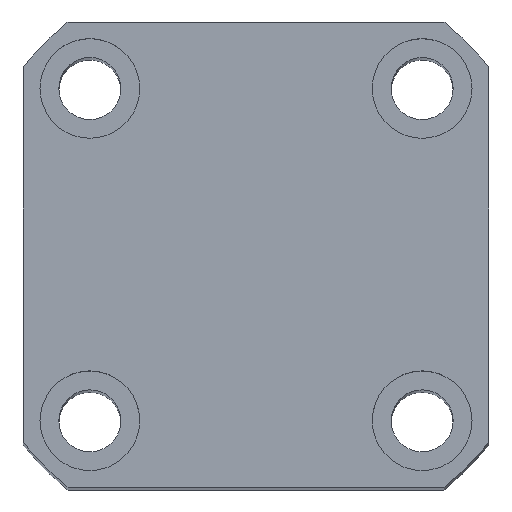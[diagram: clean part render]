
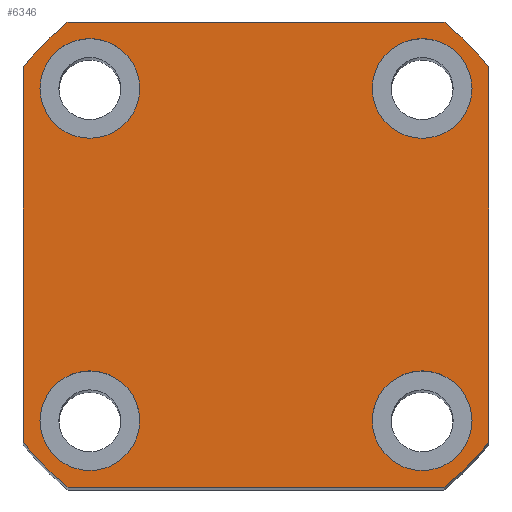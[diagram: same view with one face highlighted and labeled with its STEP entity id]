
A CAD part, top view. The second image highlights one B-rep face of the part: STEP entity #6346.
In plain terms, the highlighted planar face has unit normal (0, 0, 1).
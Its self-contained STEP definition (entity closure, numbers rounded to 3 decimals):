
#30 = DIRECTION ( 'NONE',  ( 0., 0., 1. ) ) ;
#39 = CARTESIAN_POINT ( 'NONE',  ( 19.5, -14.998, 143. ) ) ;
#66 = CARTESIAN_POINT ( 'NONE',  ( 21., 16.971, 143. ) ) ;
#226 = EDGE_LOOP ( 'NONE', ( #5581, #607 ) ) ;
#274 = DIRECTION ( 'NONE',  ( 1., 0., 0. ) ) ;
#482 = LINE ( 'NONE', #2869, #8906 ) ;
#490 = ORIENTED_EDGE ( 'NONE', *, *, #10449, .T. ) ;
#497 = EDGE_LOOP ( 'NONE', ( #5634, #9092 ) ) ;
#580 = DIRECTION ( 'NONE',  ( 1., 0., 0. ) ) ;
#607 = ORIENTED_EDGE ( 'NONE', *, *, #3022, .F. ) ;
#610 = CARTESIAN_POINT ( 'NONE',  ( -19.5, -14.998, 143. ) ) ;
#704 = DIRECTION ( 'NONE',  ( 0., 0., 1. ) ) ;
#796 = EDGE_CURVE ( 'NONE', #2586, #1555, #2000, .T. ) ;
#1035 = EDGE_LOOP ( 'NONE', ( #10140, #2415 ) ) ;
#1123 = CIRCLE ( 'NONE', #9740, 4.5 ) ;
#1215 = CARTESIAN_POINT ( 'NONE',  ( -19.5, 15.002, 143. ) ) ;
#1235 = DIRECTION ( 'NONE',  ( 0., 1., 0. ) ) ;
#1271 = DIRECTION ( 'NONE',  ( 0., 0., 1. ) ) ;
#1298 = DIRECTION ( 'NONE',  ( 1., 0., 0. ) ) ;
#1387 = FACE_BOUND ( 'NONE', #497, .T. ) ;
#1540 = CARTESIAN_POINT ( 'NONE',  ( -10.5, -14.998, 143. ) ) ;
#1555 = VERTEX_POINT ( 'NONE', #1215 ) ;
#1567 = CIRCLE ( 'NONE', #5470, 27. ) ;
#1603 = CARTESIAN_POINT ( 'NONE',  ( 0., 0., 143. ) ) ;
#1648 = EDGE_CURVE ( 'NONE', #10284, #10252, #3940, .T. ) ;
#1775 = DIRECTION ( 'NONE',  ( 0., 0., 1. ) ) ;
#1784 = VERTEX_POINT ( 'NONE', #8841 ) ;
#2000 = CIRCLE ( 'NONE', #9821, 4.5 ) ;
#2066 = ORIENTED_EDGE ( 'NONE', *, *, #6181, .T. ) ;
#2148 = VECTOR ( 'NONE', #6226, 1000. ) ;
#2277 = ORIENTED_EDGE ( 'NONE', *, *, #5655, .T. ) ;
#2334 = CARTESIAN_POINT ( 'NONE',  ( 0., 0., 143. ) ) ;
#2338 = CIRCLE ( 'NONE', #8079, 4.5 ) ;
#2363 = VERTEX_POINT ( 'NONE', #3105 ) ;
#2415 = ORIENTED_EDGE ( 'NONE', *, *, #3243, .F. ) ;
#2467 = PLANE ( 'NONE',  #3305 ) ;
#2484 = AXIS2_PLACEMENT_3D ( 'NONE', #4999, #30, #5813 ) ;
#2485 = EDGE_CURVE ( 'NONE', #1784, #10284, #4173, .T. ) ;
#2577 = DIRECTION ( 'NONE',  ( 0., 0., 1. ) ) ;
#2586 = VERTEX_POINT ( 'NONE', #2859 ) ;
#2644 = CARTESIAN_POINT ( 'NONE',  ( -15., 15.002, 143. ) ) ;
#2671 = VERTEX_POINT ( 'NONE', #6999 ) ;
#2703 = DIRECTION ( 'NONE',  ( 0., 0., 1. ) ) ;
#2715 = DIRECTION ( 'NONE',  ( 1., 0., 0. ) ) ;
#2735 = CARTESIAN_POINT ( 'NONE',  ( -21., 21., 143. ) ) ;
#2859 = CARTESIAN_POINT ( 'NONE',  ( -10.5, 15.002, 143. ) ) ;
#2869 = CARTESIAN_POINT ( 'NONE',  ( -21., -21., 143. ) ) ;
#2873 = EDGE_CURVE ( 'NONE', #3373, #2363, #9067, .T. ) ;
#2884 = ORIENTED_EDGE ( 'NONE', *, *, #8613, .T. ) ;
#2929 = VERTEX_POINT ( 'NONE', #9082 ) ;
#3022 = EDGE_CURVE ( 'NONE', #1555, #2586, #2338, .T. ) ;
#3105 = CARTESIAN_POINT ( 'NONE',  ( 10.5, -14.998, 143. ) ) ;
#3167 = DIRECTION ( 'NONE',  ( 1., 0., 0. ) ) ;
#3243 = EDGE_CURVE ( 'NONE', #3301, #8666, #6685, .T. ) ;
#3265 = ORIENTED_EDGE ( 'NONE', *, *, #9537, .F. ) ;
#3295 = DIRECTION ( 'NONE',  ( 1., 0., 0. ) ) ;
#3301 = VERTEX_POINT ( 'NONE', #610 ) ;
#3304 = FACE_OUTER_BOUND ( 'NONE', #7048, .T. ) ;
#3305 = AXIS2_PLACEMENT_3D ( 'NONE', #1603, #8182, #3295 ) ;
#3373 = VERTEX_POINT ( 'NONE', #39 ) ;
#3823 = AXIS2_PLACEMENT_3D ( 'NONE', #5629, #704, #6434 ) ;
#3848 = CARTESIAN_POINT ( 'NONE',  ( 0., 0., 143. ) ) ;
#3940 = CIRCLE ( 'NONE', #4760, 27. ) ;
#4173 = LINE ( 'NONE', #2735, #8224 ) ;
#4201 = EDGE_CURVE ( 'NONE', #2363, #3373, #10513, .T. ) ;
#4212 = CIRCLE ( 'NONE', #6462, 27. ) ;
#4230 = EDGE_CURVE ( 'NONE', #2929, #9094, #1567, .T. ) ;
#4280 = EDGE_LOOP ( 'NONE', ( #9354, #3265 ) ) ;
#4348 = LINE ( 'NONE', #5411, #2148 ) ;
#4392 = CARTESIAN_POINT ( 'NONE',  ( -21., 16.971, 143. ) ) ;
#4619 = VECTOR ( 'NONE', #1235, 1000. ) ;
#4682 = DIRECTION ( 'NONE',  ( 1., 0., 0. ) ) ;
#4685 = ORIENTED_EDGE ( 'NONE', *, *, #1648, .T. ) ;
#4760 = AXIS2_PLACEMENT_3D ( 'NONE', #6456, #8084, #8849 ) ;
#4838 = AXIS2_PLACEMENT_3D ( 'NONE', #6186, #1271, #6980 ) ;
#4853 = DIRECTION ( 'NONE',  ( 0., 0., 1. ) ) ;
#4921 = CARTESIAN_POINT ( 'NONE',  ( 19.5, 15., 143. ) ) ;
#4999 = CARTESIAN_POINT ( 'NONE',  ( -15., -14.998, 143. ) ) ;
#5230 = DIRECTION ( 'NONE',  ( 0., 0., 1. ) ) ;
#5411 = CARTESIAN_POINT ( 'NONE',  ( -21., 21., 143. ) ) ;
#5432 = EDGE_CURVE ( 'NONE', #8233, #2671, #1123, .T. ) ;
#5470 = AXIS2_PLACEMENT_3D ( 'NONE', #9695, #4853, #10530 ) ;
#5501 = FACE_BOUND ( 'NONE', #4280, .T. ) ;
#5507 = DIRECTION ( 'NONE',  ( 0., 0., 1. ) ) ;
#5581 = ORIENTED_EDGE ( 'NONE', *, *, #796, .F. ) ;
#5629 = CARTESIAN_POINT ( 'NONE',  ( 15., -14.998, 143. ) ) ;
#5634 = ORIENTED_EDGE ( 'NONE', *, *, #2873, .F. ) ;
#5655 = EDGE_CURVE ( 'NONE', #9500, #6581, #6619, .T. ) ;
#5813 = DIRECTION ( 'NONE',  ( 1., 0., 0. ) ) ;
#5993 = FACE_BOUND ( 'NONE', #1035, .T. ) ;
#6088 = EDGE_CURVE ( 'NONE', #6581, #9555, #6743, .T. ) ;
#6155 = CARTESIAN_POINT ( 'NONE',  ( 21., 21., 143. ) ) ;
#6181 = EDGE_CURVE ( 'NONE', #10252, #2929, #4348, .T. ) ;
#6186 = CARTESIAN_POINT ( 'NONE',  ( 15., -14.998, 143. ) ) ;
#6226 = DIRECTION ( 'NONE',  ( 0., -1., 0. ) ) ;
#6346 = ADVANCED_FACE ( 'NONE', ( #7629, #5993, #1387, #5501, #3304 ), #2467, .T. ) ;
#6363 = CIRCLE ( 'NONE', #2484, 4.5 ) ;
#6434 = DIRECTION ( 'NONE',  ( 1., 0., 0. ) ) ;
#6456 = CARTESIAN_POINT ( 'NONE',  ( 0., 0., 143. ) ) ;
#6462 = AXIS2_PLACEMENT_3D ( 'NONE', #2334, #8041, #3167 ) ;
#6581 = VERTEX_POINT ( 'NONE', #9426 ) ;
#6608 = CARTESIAN_POINT ( 'NONE',  ( 16.971, -21., 143. ) ) ;
#6619 = CIRCLE ( 'NONE', #6810, 27. ) ;
#6685 = CIRCLE ( 'NONE', #10610, 4.5 ) ;
#6743 = LINE ( 'NONE', #6155, #4619 ) ;
#6789 = DIRECTION ( 'NONE',  ( -1., 0., 0. ) ) ;
#6810 = AXIS2_PLACEMENT_3D ( 'NONE', #3848, #9513, #4682 ) ;
#6980 = DIRECTION ( 'NONE',  ( 1., 0., 0. ) ) ;
#6999 = CARTESIAN_POINT ( 'NONE',  ( 10.5, 15., 143. ) ) ;
#7048 = EDGE_LOOP ( 'NONE', ( #7103, #2884, #10394, #4685, #2066, #7513, #490, #2277 ) ) ;
#7103 = ORIENTED_EDGE ( 'NONE', *, *, #6088, .T. ) ;
#7460 = CARTESIAN_POINT ( 'NONE',  ( 15., 15., 143. ) ) ;
#7513 = ORIENTED_EDGE ( 'NONE', *, *, #4230, .T. ) ;
#7582 = CARTESIAN_POINT ( 'NONE',  ( -15., 15.002, 143. ) ) ;
#7629 = FACE_BOUND ( 'NONE', #226, .T. ) ;
#7640 = EDGE_CURVE ( 'NONE', #8666, #3301, #6363, .T. ) ;
#8041 = DIRECTION ( 'NONE',  ( 0., 0., 1. ) ) ;
#8079 = AXIS2_PLACEMENT_3D ( 'NONE', #7582, #2703, #8407 ) ;
#8084 = DIRECTION ( 'NONE',  ( 0., 0., 1. ) ) ;
#8182 = DIRECTION ( 'NONE',  ( 0., 0., 1. ) ) ;
#8224 = VECTOR ( 'NONE', #6789, 1000. ) ;
#8233 = VERTEX_POINT ( 'NONE', #4921 ) ;
#8244 = AXIS2_PLACEMENT_3D ( 'NONE', #7460, #2577, #8288 ) ;
#8260 = CARTESIAN_POINT ( 'NONE',  ( -16.971, -21., 143. ) ) ;
#8288 = DIRECTION ( 'NONE',  ( 1., 0., 0. ) ) ;
#8407 = DIRECTION ( 'NONE',  ( 1., 0., 0. ) ) ;
#8613 = EDGE_CURVE ( 'NONE', #9555, #1784, #4212, .T. ) ;
#8666 = VERTEX_POINT ( 'NONE', #1540 ) ;
#8681 = CIRCLE ( 'NONE', #8244, 4.5 ) ;
#8841 = CARTESIAN_POINT ( 'NONE',  ( 16.971, 21., 143. ) ) ;
#8849 = DIRECTION ( 'NONE',  ( 1., 0., 0. ) ) ;
#8906 = VECTOR ( 'NONE', #1298, 1000. ) ;
#9067 = CIRCLE ( 'NONE', #4838, 4.5 ) ;
#9082 = CARTESIAN_POINT ( 'NONE',  ( -21., -16.971, 143. ) ) ;
#9092 = ORIENTED_EDGE ( 'NONE', *, *, #4201, .F. ) ;
#9094 = VERTEX_POINT ( 'NONE', #8260 ) ;
#9206 = CARTESIAN_POINT ( 'NONE',  ( -16.971, 21., 143. ) ) ;
#9354 = ORIENTED_EDGE ( 'NONE', *, *, #5432, .F. ) ;
#9426 = CARTESIAN_POINT ( 'NONE',  ( 21., -16.971, 143. ) ) ;
#9500 = VERTEX_POINT ( 'NONE', #6608 ) ;
#9513 = DIRECTION ( 'NONE',  ( 0., 0., 1. ) ) ;
#9537 = EDGE_CURVE ( 'NONE', #2671, #8233, #8681, .T. ) ;
#9555 = VERTEX_POINT ( 'NONE', #66 ) ;
#9695 = CARTESIAN_POINT ( 'NONE',  ( 0., 0., 143. ) ) ;
#9740 = AXIS2_PLACEMENT_3D ( 'NONE', #10085, #5230, #274 ) ;
#9821 = AXIS2_PLACEMENT_3D ( 'NONE', #2644, #1775, #2715 ) ;
#10085 = CARTESIAN_POINT ( 'NONE',  ( 15., 15., 143. ) ) ;
#10140 = ORIENTED_EDGE ( 'NONE', *, *, #7640, .F. ) ;
#10252 = VERTEX_POINT ( 'NONE', #4392 ) ;
#10284 = VERTEX_POINT ( 'NONE', #9206 ) ;
#10372 = CARTESIAN_POINT ( 'NONE',  ( -15., -14.998, 143. ) ) ;
#10394 = ORIENTED_EDGE ( 'NONE', *, *, #2485, .T. ) ;
#10449 = EDGE_CURVE ( 'NONE', #9094, #9500, #482, .T. ) ;
#10513 = CIRCLE ( 'NONE', #3823, 4.5 ) ;
#10530 = DIRECTION ( 'NONE',  ( 1., 0., 0. ) ) ;
#10610 = AXIS2_PLACEMENT_3D ( 'NONE', #10372, #5507, #580 ) ;
